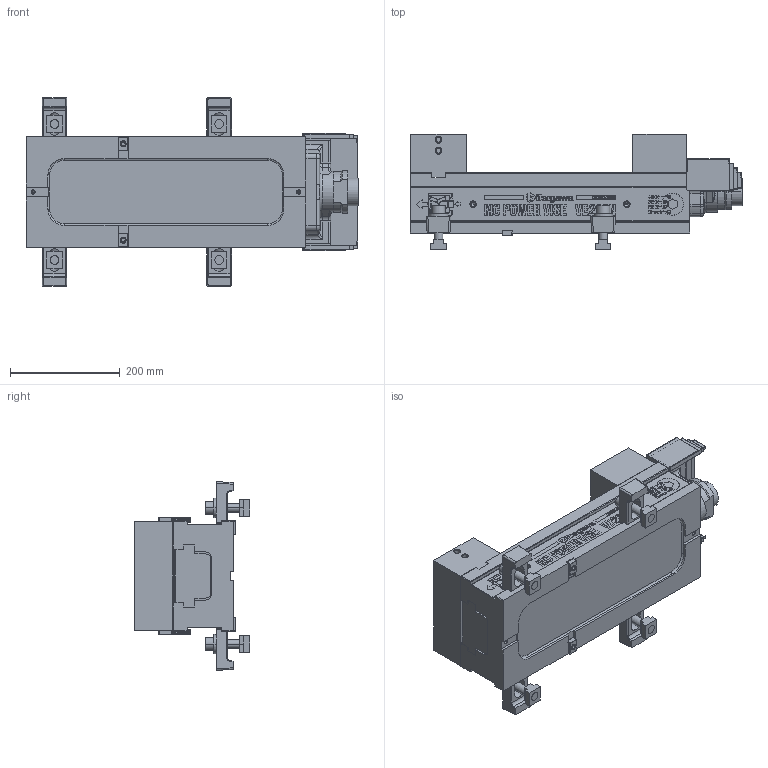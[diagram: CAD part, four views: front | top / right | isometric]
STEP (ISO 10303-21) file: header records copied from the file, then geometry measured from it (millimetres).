
FILE_DESCRIPTION (( 'STEP AP214' ), '1' );
FILE_NAME ('VE200N_O.STEP', '2023-08-04T06:52:05', ( '' ), ( '' ), 'SwSTEP 2.0', 'SolidWorks 2020', '' );
FILE_SCHEMA (( 'AUTOMOTIVE_DESIGN' ));
Length unit declared in the file: millimetre
Products named in the file (21): Bアナツキ M16×65; カバーリング(61M4399252)VE160N; 僗儔僀僪僇僶乕Y(61M3523355)VE200; 僒僀僪僔乕儖L(61M2680410); VE200N_O; エンドカバー（61M4625121）; T僗儘僢僩僫僢僩俿俶俵侾俉侾俇; 僒僀僪僔乕儖R(61M2680400); クランプクミタテ(61M420565); 僗儔僀僪僇僶乕X(61M3523343)VE200; クランプ(61M3159626)VP160; ガイドブロック(61M4197783); ボデー(61M2367034)VE200; 僕儑乕F(61M3964312)VE200N; 僗儔僀僪僇僶乕Z(61M3523364)VE200; VE200Nホンタイ; 僕儑乕M(61俵3964320)VE200N; 儚僢僔儍丂16乮61M4266330乯; 僗儔僀僪僇僶乕W(61M3523332)VE200; リボルバ部; スプリングケース(61M2367042)VE200
Assembly tree (24 placements, depth 3):
  VE200N_O
    VE200Nホンタイ
      ボデー(61M2367034)VE200
      ガイドブロック(61M4197783)  x2
      僕儑乕F(61M3964312)VE200N
      スプリングケース(61M2367042)VE200
      カバーリング(61M4399252)VE160N
      リボルバ部
      エンドカバー（61M4625121）
      僕儑乕M(61俵3964320)VE200N
      僗儔僀僪僇僶乕W(61M3523332)VE200
      僗儔僀僪僇僶乕X(61M3523343)VE200
      僗儔僀僪僇僶乕Y(61M3523355)VE200
      僗儔僀僪僇僶乕Z(61M3523364)VE200
      僒僀僪僔乕儖L(61M2680410)
      僒僀僪僔乕儖R(61M2680400)
    クランプクミタテ(61M420565)  x4
      クランプ(61M3159626)VP160
      儚僢僔儍丂16乮61M4266330乯
      Bアナツキ M16×65
      T僗儘僢僩僫僢僩俿俶俵侾俉侾俇
Bounding box: 605 x 210 x 344 mm (x, y, z)
Volume: 14380512.2 mm3; surface area: 1119985 mm2
Topology: 31 solids, 31 shells, 1208 faces, 5948 edges, 5094 vertices
Faces by surface type: plane 834, cylinder 263, cone 79, torus 19, bspline 13
Entity records: 65736 total; most frequent: CARTESIAN_POINT 16317, ORIENTED_EDGE 10826, DIRECTION 7511, EDGE_CURVE 5413, VERTEX_POINT 4764, LINE 4433, VECTOR 4433, AXIS2_PLACEMENT_3D 1539
